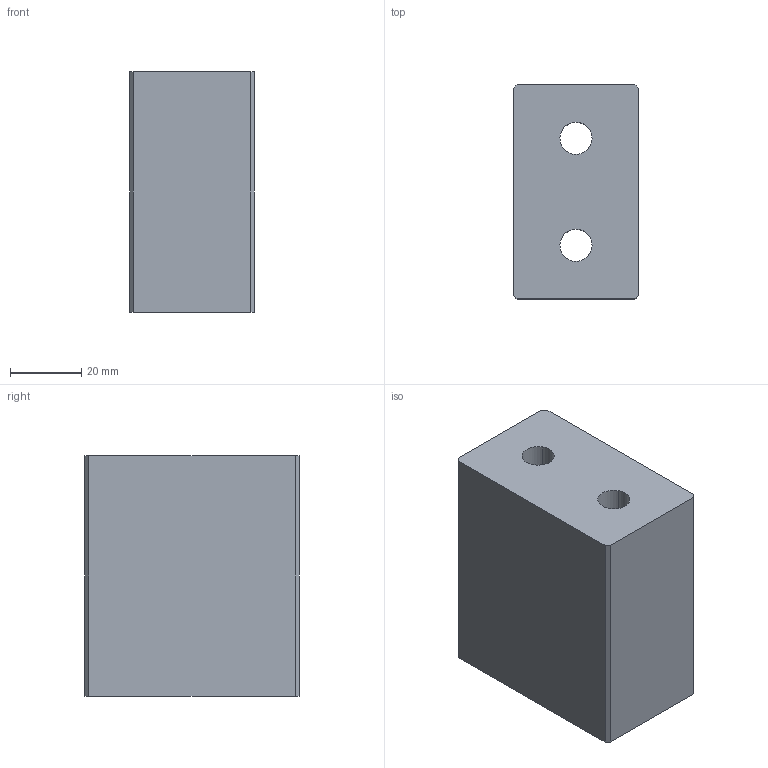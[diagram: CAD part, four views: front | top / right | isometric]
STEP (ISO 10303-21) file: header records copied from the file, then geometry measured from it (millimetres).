
FILE_DESCRIPTION(('CATIA V5 STEP Exchange','CAx-IF Rec.Pracs.--- Model Styling and Organization---1.5--- 2016-08-15','CAx-IF Rec.Pracs.---Supplemental Geometry---1.0---2011-11-01','CAx-IF Rec.Pracs.--- Composite Materials ---1.1---2010-07-15','CAx-IF Rec.Pracs.---External References---2.1---2005-01-19'),'2;1');
FILE_NAME('E:\WAT\Sprezarka\121_00_00_Tlocznik1\Tlocznik1_KPL\Tlocznik1_stp\121_01_10_Dystans.stp','2023-08-01T08:49:43+00:00',('none'),('none'),'CATIA Version 5-6 Release 2022 SP3','CATIA V5 STEP AP214 v2','none');
FILE_SCHEMA(('AUTOMOTIVE_DESIGN { 1 0 10303 214 1 1 1 1 }'));
Length unit declared in the file: millimetre
Products named in the file (1): 121_01_10_Dystans
Bounding box: 35 x 60 x 67.5 mm (x, y, z)
Volume: 121716.9 mm3; surface area: 22310.4 mm2
Topology: 1 solids, 1 shells, 20 faces, 48 edges, 32 vertices
Faces by surface type: plane 12, cylinder 8
Entity records: 611 total; most frequent: CARTESIAN_POINT 96, ORIENTED_EDGE 96, DIRECTION 78, EDGE_CURVE 48, AXIS2_PLACEMENT_3D 32, VECTOR 32, LINE 32, VERTEX_POINT 32
